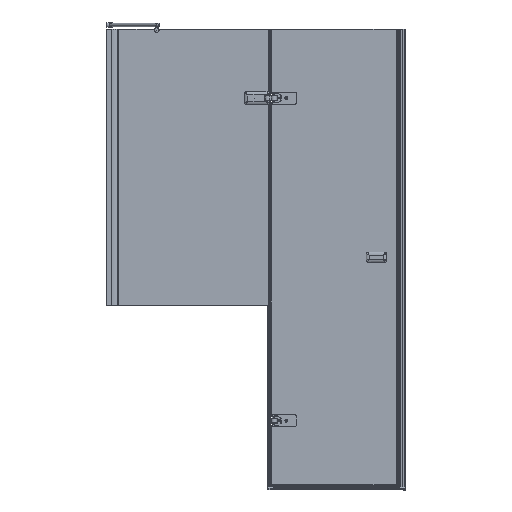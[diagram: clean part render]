
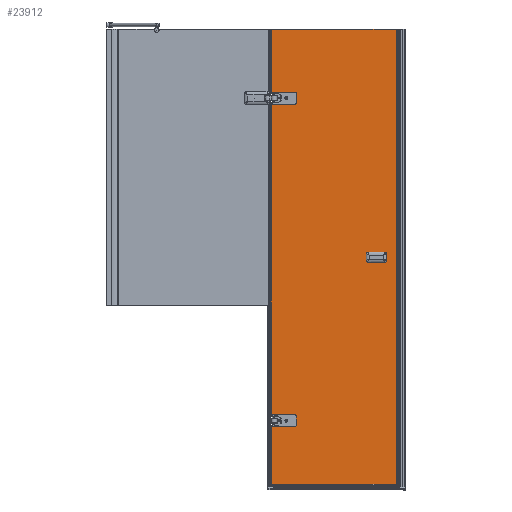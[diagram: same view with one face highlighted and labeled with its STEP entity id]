
A CAD part, front view. The second image highlights one B-rep face of the part: STEP entity #23912.
In plain terms, the highlighted planar face has unit normal (0, -1, 0).
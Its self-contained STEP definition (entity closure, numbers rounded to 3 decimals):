
#961=FACE_BOUND($,#3538,.T.);
#962=FACE_BOUND($,#3539,.T.);
#963=FACE_BOUND($,#3540,.T.);
#964=FACE_BOUND($,#3541,.T.);
#965=FACE_BOUND($,#3542,.T.);
#1349=PLANE($,#25506);
#3538=EDGE_LOOP($,(#16586));
#3539=EDGE_LOOP($,(#16587));
#3540=EDGE_LOOP($,(#16588));
#3541=EDGE_LOOP($,(#16589));
#3542=EDGE_LOOP($,(#16590,#16591,#16592,#16593,#16594,#16595,#16596,#16597,
#16598,#16599,#16600,#16601,#16602,#16603,#16604,#16605));
#5264=LINE($,#35470,#7483);
#5268=LINE($,#35482,#7487);
#5273=LINE($,#35497,#7492);
#5277=LINE($,#35509,#7496);
#5282=LINE($,#35528,#7501);
#5285=LINE($,#35534,#7504);
#5288=LINE($,#35550,#7507);
#5289=LINE($,#35553,#7508);
#5296=LINE($,#35565,#7515);
#5297=LINE($,#35567,#7516);
#5298=LINE($,#35569,#7517);
#5299=LINE($,#35570,#7518);
#7483=VECTOR($,#28073,18.);
#7487=VECTOR($,#28085,32.);
#7492=VECTOR($,#28098,18.);
#7496=VECTOR($,#28110,32.);
#7501=VECTOR($,#28129,32.);
#7504=VECTOR($,#28134,32.);
#7507=VECTOR($,#28151,261.);
#7508=VECTOR($,#28154,281.);
#7515=VECTOR($,#28165,1362.);
#7516=VECTOR($,#28166,550.);
#7517=VECTOR($,#28167,1980.);
#7518=VECTOR($,#28168,550.);
#9700=CIRCLE($,#25474,10.);
#9702=CIRCLE($,#25478,10.);
#9704=CIRCLE($,#25482,10.);
#9706=CIRCLE($,#25486,10.);
#9709=CIRCLE($,#25491,5.5);
#9711=CIRCLE($,#25494,5.5);
#9713=CIRCLE($,#25499,8.);
#9715=CIRCLE($,#25502,8.);
#10693=VERTEX_POINT($,#35460);
#10694=VERTEX_POINT($,#35461);
#10697=VERTEX_POINT($,#35469);
#10699=VERTEX_POINT($,#35475);
#10701=VERTEX_POINT($,#35481);
#10703=VERTEX_POINT($,#35487);
#10704=VERTEX_POINT($,#35488);
#10707=VERTEX_POINT($,#35496);
#10709=VERTEX_POINT($,#35502);
#10711=VERTEX_POINT($,#35508);
#10714=VERTEX_POINT($,#35516);
#10716=VERTEX_POINT($,#35521);
#10718=VERTEX_POINT($,#35526);
#10720=VERTEX_POINT($,#35532);
#10722=VERTEX_POINT($,#35538);
#10724=VERTEX_POINT($,#35543);
#10726=VERTEX_POINT($,#35548);
#10727=VERTEX_POINT($,#35552);
#10731=VERTEX_POINT($,#35566);
#10732=VERTEX_POINT($,#35568);
#13050=EDGE_CURVE($,#10693,#10694,#9700,.T.);
#13054=EDGE_CURVE($,#10697,#10694,#5264,.T.);
#13057=EDGE_CURVE($,#10697,#10699,#9702,.T.);
#13060=EDGE_CURVE($,#10701,#10699,#5268,.T.);
#13063=EDGE_CURVE($,#10703,#10704,#9704,.T.);
#13067=EDGE_CURVE($,#10707,#10704,#5273,.T.);
#13070=EDGE_CURVE($,#10707,#10709,#9706,.T.);
#13073=EDGE_CURVE($,#10711,#10709,#5277,.T.);
#13077=EDGE_CURVE($,#10714,#10714,#9709,.T.);
#13079=EDGE_CURVE($,#10716,#10716,#9711,.T.);
#13082=EDGE_CURVE($,#10693,#10718,#5282,.T.);
#13085=EDGE_CURVE($,#10703,#10720,#5285,.T.);
#13087=EDGE_CURVE($,#10722,#10722,#9713,.T.);
#13089=EDGE_CURVE($,#10724,#10724,#9715,.T.);
#13092=EDGE_CURVE($,#10726,#10720,#5288,.T.);
#13093=EDGE_CURVE($,#10701,#10727,#5289,.T.);
#13100=EDGE_CURVE($,#10711,#10718,#5296,.T.);
#13101=EDGE_CURVE($,#10726,#10731,#5297,.T.);
#13102=EDGE_CURVE($,#10731,#10732,#5298,.T.);
#13103=EDGE_CURVE($,#10727,#10732,#5299,.T.);
#16586=ORIENTED_EDGE($,*,*,#13077,.T.);
#16587=ORIENTED_EDGE($,*,*,#13079,.T.);
#16588=ORIENTED_EDGE($,*,*,#13089,.T.);
#16589=ORIENTED_EDGE($,*,*,#13087,.T.);
#16590=ORIENTED_EDGE($,*,*,#13060,.T.);
#16591=ORIENTED_EDGE($,*,*,#13057,.F.);
#16592=ORIENTED_EDGE($,*,*,#13054,.T.);
#16593=ORIENTED_EDGE($,*,*,#13050,.F.);
#16594=ORIENTED_EDGE($,*,*,#13082,.T.);
#16595=ORIENTED_EDGE($,*,*,#13100,.F.);
#16596=ORIENTED_EDGE($,*,*,#13073,.T.);
#16597=ORIENTED_EDGE($,*,*,#13070,.F.);
#16598=ORIENTED_EDGE($,*,*,#13067,.T.);
#16599=ORIENTED_EDGE($,*,*,#13063,.F.);
#16600=ORIENTED_EDGE($,*,*,#13085,.T.);
#16601=ORIENTED_EDGE($,*,*,#13092,.F.);
#16602=ORIENTED_EDGE($,*,*,#13101,.T.);
#16603=ORIENTED_EDGE($,*,*,#13102,.T.);
#16604=ORIENTED_EDGE($,*,*,#13103,.F.);
#16605=ORIENTED_EDGE($,*,*,#13093,.F.);
#23912=ADVANCED_FACE($,(#961,#962,#963,#964,#965),#1349,.T.);
#25474=AXIS2_PLACEMENT_3D($,#35462,#28065,#28066);
#25478=AXIS2_PLACEMENT_3D($,#35476,#28078,#28079);
#25482=AXIS2_PLACEMENT_3D($,#35489,#28090,#28091);
#25486=AXIS2_PLACEMENT_3D($,#35503,#28103,#28104);
#25491=AXIS2_PLACEMENT_3D($,#35517,#28117,#28118);
#25494=AXIS2_PLACEMENT_3D($,#35522,#28123,#28124);
#25499=AXIS2_PLACEMENT_3D($,#35539,#28139,#28140);
#25502=AXIS2_PLACEMENT_3D($,#35544,#28145,#28146);
#25506=AXIS2_PLACEMENT_3D($,#35564,#28163,#28164);
#28065=DIRECTION('center_axis',(0.,-1.,0.));
#28066=DIRECTION('ref_axis',(0.707,0.,-0.707));
#28073=DIRECTION($,(0.,0.,-1.));
#28078=DIRECTION('center_axis',(0.,-1.,0.));
#28079=DIRECTION('ref_axis',(0.707,0.,0.707));
#28085=DIRECTION($,(1.,0.,0.));
#28090=DIRECTION('center_axis',(0.,-1.,0.));
#28091=DIRECTION('ref_axis',(0.707,0.,-0.707));
#28098=DIRECTION($,(0.,0.,-1.));
#28103=DIRECTION('center_axis',(0.,-1.,0.));
#28104=DIRECTION('ref_axis',(0.707,0.,0.707));
#28110=DIRECTION($,(1.,0.,0.));
#28117=DIRECTION('center_axis',(0.,1.,0.));
#28118=DIRECTION('ref_axis',(-1.,0.,0.));
#28123=DIRECTION('center_axis',(0.,1.,0.));
#28124=DIRECTION('ref_axis',(-1.,0.,0.));
#28129=DIRECTION($,(-1.,0.,0.));
#28134=DIRECTION($,(-1.,0.,0.));
#28139=DIRECTION('center_axis',(0.,1.,0.));
#28140=DIRECTION('ref_axis',(-1.,0.,0.));
#28145=DIRECTION('center_axis',(0.,1.,0.));
#28146=DIRECTION('ref_axis',(-1.,0.,0.));
#28151=DIRECTION($,(0.,0.,1.));
#28154=DIRECTION($,(0.,0.,1.));
#28163=DIRECTION('center_axis',(0.,-1.,0.));
#28164=DIRECTION('ref_axis',(1.,0.,0.));
#28165=DIRECTION($,(0.,0.,1.));
#28166=DIRECTION($,(1.,0.,0.));
#28167=DIRECTION($,(0.,0.,1.));
#28168=DIRECTION($,(1.,0.,0.));
#35460=CARTESIAN_POINT('',(32.,0.,1661.));
#35461=CARTESIAN_POINT('',(42.,0.,1671.));
#35462=CARTESIAN_POINT('Origin',(32.,0.,1671.));
#35469=CARTESIAN_POINT('',(42.,0.,1689.));
#35470=CARTESIAN_POINT($,(42.,0.,849.5));
#35475=CARTESIAN_POINT('',(32.,0.,1699.));
#35476=CARTESIAN_POINT('Origin',(32.,0.,1689.));
#35481=CARTESIAN_POINT('',(0.,0.,1699.));
#35482=CARTESIAN_POINT($,(0.,0.,1699.));
#35487=CARTESIAN_POINT('',(32.,0.,261.));
#35488=CARTESIAN_POINT('',(42.,0.,271.));
#35489=CARTESIAN_POINT('Origin',(32.,0.,271.));
#35496=CARTESIAN_POINT('',(42.,0.,289.));
#35497=CARTESIAN_POINT($,(42.,0.,149.5));
#35502=CARTESIAN_POINT('',(32.,0.,299.));
#35503=CARTESIAN_POINT('Origin',(32.,0.,289.));
#35508=CARTESIAN_POINT('',(0.,0.,299.));
#35509=CARTESIAN_POINT($,(0.,0.,299.));
#35516=CARTESIAN_POINT('',(485.5,0.,976.));
#35517=CARTESIAN_POINT('Origin',(480.,0.,976.));
#35521=CARTESIAN_POINT('',(485.5,0.,1004.));
#35522=CARTESIAN_POINT('Origin',(480.,0.,1004.));
#35526=CARTESIAN_POINT('',(0.,0.,1661.));
#35528=CARTESIAN_POINT($,(21.,0.,1661.));
#35532=CARTESIAN_POINT('',(0.,0.,261.));
#35534=CARTESIAN_POINT($,(21.,0.,261.));
#35538=CARTESIAN_POINT('',(73.,0.,1680.));
#35539=CARTESIAN_POINT('Origin',(65.,0.,1680.));
#35543=CARTESIAN_POINT('',(73.,0.,280.));
#35544=CARTESIAN_POINT('Origin',(65.,0.,280.));
#35548=CARTESIAN_POINT('',(0.,0.,0.));
#35550=CARTESIAN_POINT($,(0.,0.,0.));
#35552=CARTESIAN_POINT('',(0.,0.,1980.));
#35553=CARTESIAN_POINT($,(0.,0.,0.));
#35564=CARTESIAN_POINT('Origin',(0.,0.,0.));
#35565=CARTESIAN_POINT($,(0.,0.,0.));
#35566=CARTESIAN_POINT('',(550.,0.,0.));
#35567=CARTESIAN_POINT($,(0.,0.,0.));
#35568=CARTESIAN_POINT('',(550.,0.,1980.));
#35569=CARTESIAN_POINT($,(550.,0.,0.));
#35570=CARTESIAN_POINT($,(0.,0.,1980.));
